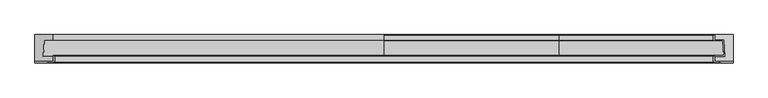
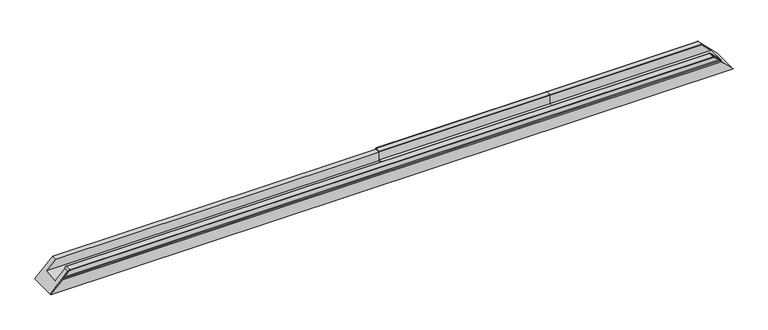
"""IFC4 building model written with IfcOpenShell, lengths in millimetres: proxy geometry, Weiku - Montante - Caixilho duplo 02.2.01.002 : Weiku - Montante - Caixilho duplo 02.2.01.002."""

from ifc_helpers import new_model, si_unit, point, frame, frame_2d, origin, place, context, project, spatial, polyline, circle_curve, ellipse_curve, trimmed, segment, composite_curve, outline, extrude, faceted_brep, source, transform, mapped, element, save
from ifc_brep_helpers import plane_surface, cylinder_surface, revolved_surface, advanced_brep


def generic_models_74214fbd(model_context):
    return source(origin(), model_context, "Body", "SolidModel", [
        extrude(outline(composite_curve([segment(polyline([(-15.0, 52.0), (-15.0, 26.0), (-62.0, 23.7770256), (-62.0, 52.0), (-60.0, 52.0), (-60.0, 26.8749739), (-17.0, 28.908759), (-17.0, 55.0)]), True, "CONTINUOUS"), segment(trimmed(circle_curve(frame_2d((-16.0, 55.0)), 1.0), [point((-17.0, 55.0))], [point((-16.0, 56.0))], False, "CARTESIAN"), True, "CONTINUOUS"), segment(polyline([(-16.0, 56.0), (-1.0, 56.0)]), True, "CONTINUOUS"), segment(trimmed(circle_curve(frame_2d((-1.0, 55.0)), 1.0), [point((-1.0, 56.0))], [point((0.0, 55.0))], False, "CARTESIAN"), True, "CONTINUOUS"), segment(polyline([(0.0, 55.0), (0.0, 52.0), (-15.0, 52.0)]), True, "CONTINUOUS")], self_intersect=False)), frame((0.0, 0.0, 0.0), z_axis=(1.0, 0.0, 0.0), x_axis=(0.0, 1.0, 0.0)), (0.0, 0.0, 1.0), 497.5),
        advanced_brep(
        [(943.0, 0.0, 52.0), (940.0, 0.0, 55.0), (939.0, -1.0, 56.0), (939.0, -16.0, 56.0), (940.0, -17.0, 55.0), (966.091241, -17.0, 28.908759), (968.1250261, -60.0, 26.8749739), (943.0, -60.0, 52.0), (943.0, -62.0, 52.0), (971.2229744, -62.0, 23.7770256), (969.0, -15.0, 26.0), (943.0, -15.0, 52.0), (497.5, -15.0, 52.0), (497.5, -15.0, 26.0), (497.5, -62.0, 23.7770256), (497.5, -62.0, 52.0), (497.5, -60.0, 52.0), (497.5, -60.0, 26.8749739), (497.5, -17.0, 28.908759), (497.5, -17.0, 55.0), (497.5, -16.0, 56.0), (497.5, -1.0, 56.0), (497.5, 0.0, 55.0), (497.5, 0.0, 52.0)],
        [
            (0, 1),
            (1, 2, ellipse_curve(frame((940.0, -1.0, 55.0), z_axis=(0.7071067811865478, 0.0, 0.7071067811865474), x_axis=(-0.7071067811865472, 0.0, 0.7071067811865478)), 1.4142136, 1.0)),
            (2, 3),
            (3, 4, ellipse_curve(frame((940.0, -16.0, 55.0), z_axis=(0.7071067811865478, 0.0, 0.7071067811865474), x_axis=(-0.7071067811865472, 0.0, 0.7071067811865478)), 1.4142136, 1.0)),
            (4, 5),
            (5, 6),
            (6, 7),
            (7, 8),
            (8, 9),
            (9, 10),
            (10, 11),
            (11, 0),
            (12, 13),
            (13, 14),
            (14, 15),
            (15, 16),
            (16, 17),
            (17, 18),
            (18, 19),
            (19, 20, circle_curve(frame((497.5, -16.0, 55.0), z_axis=(-1.0, 0.0, 0.0), x_axis=(0.0, -1.0, 0.0)), 1.0)),
            (20, 21),
            (21, 22, circle_curve(frame((497.5, -1.0, 55.0), z_axis=(-1.0, 0.0, 0.0), x_axis=(0.0, -1.0, 0.0)), 1.0)),
            (22, 23),
            (23, 12),
            (23, 0),
            (11, 12),
            (22, 1),
            (21, 2),
            (20, 3),
            (19, 4),
            (18, 5),
            (17, 6),
            (16, 7),
            (15, 8),
            (14, 9),
            (13, 10),
        ],
        [
            plane_surface(frame((925.0, 0.0, 70.0), z_axis=(0.7071067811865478, 0.0, 0.7071067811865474), x_axis=(0.0, -1.0, 0.0))),
            plane_surface(frame((497.5, 0.0, 0.0), z_axis=(-1.0, 0.0, 0.0), x_axis=(0.0, 0.0, 1.0))),
            plane_surface(frame((497.5, -15.0, 52.0), z_axis=(0.0, 0.0, -1.0), x_axis=(1.0, 0.0, 0.0))),
            plane_surface(frame((497.5, 0.0, 52.0), z_axis=(0.0, 1.0, 0.0), x_axis=(1.0, 0.0, 0.0))),
            cylinder_surface(frame((497.5, -1.0, 55.0), z_axis=(-1.0, 0.0, 0.0), x_axis=(0.0, -1.0, 0.0)), 1.0),
            plane_surface(frame((497.5, -1.0, 56.0), z_axis=(0.0, 0.0, 1.0), x_axis=(1.0, 0.0, 0.0))),
            cylinder_surface(frame((497.5, -16.0, 55.0), z_axis=(-1.0, 0.0, 0.0), x_axis=(0.0, -1.0, 0.0)), 1.0),
            plane_surface(frame((497.5, -17.0, 55.0), z_axis=(0.0, -1.0, 0.0), x_axis=(1.0, 0.0, 0.0))),
            plane_surface(frame((497.5, -17.0, 28.908759), z_axis=(0.0, -0.0472445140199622, 0.9988833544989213), x_axis=(1.0, 0.0, 0.0))),
            plane_surface(frame((497.5, -60.0, 26.8749739), z_axis=(0.0, 1.0, 0.0), x_axis=(1.0, 0.0, 0.0))),
            plane_surface(frame((497.5, -60.0, 52.0), z_axis=(0.0, 0.0, 1.0), x_axis=(1.0, 0.0, 0.0))),
            plane_surface(frame((497.5, -62.0, 52.0), z_axis=(0.0, -1.0, 0.0), x_axis=(1.0, 0.0, 0.0))),
            plane_surface(frame((497.5, -62.0, 23.7770256), z_axis=(0.0, 0.047244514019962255, -0.9988833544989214), x_axis=(1.0, 0.0, 0.0))),
            plane_surface(frame((497.5, -15.0, 26.0), z_axis=(0.0, 1.0, 0.0), x_axis=(1.0, 0.0, 0.0))),
        ],
        [
            (0, [[1, 2, 3, 4, 5, 6, 7, 8, 9, 10, 11, 12]]),
            (1, [[13, 14, 15, 16, 17, 18, 19, 20, 21, 22, 23, 24]]),
            (2, [[25, -12, 26, -24]]),
            (3, [[27, -1, -25, -23]]),
            (4, [[28, -2, -27, -22]]),
            (5, [[29, -3, -28, -21]]),
            (6, [[30, -4, -29, -20]]),
            (7, [[31, -5, -30, -19]]),
            (8, [[32, -6, -31, -18]]),
            (9, [[33, -7, -32, -17]]),
            (10, [[34, -8, -33, -16]]),
            (11, [[35, -9, -34, -15]]),
            (12, [[36, -10, -35, -14]]),
            (13, [[-26, -11, -36, -13]]),
        ],
    ),
        advanced_brep(
        [(-943.0, -60.0, 52.0), (-943.0, -77.0, 52.0), (-995.0, -77.0, 0.0), (-995.0, -81.0, 0.0), (-960.0, -81.0, 35.0), (-957.0, -80.0, 38.0), (-954.0, -79.0, 41.0), (-940.0, -79.0, 55.0), (-939.0, -78.0, 56.0), (-939.0, -61.0, 56.0), (-940.0, -60.0, 55.0), (940.0, -60.0, 55.0), (943.0, -60.0, 52.0), (939.0, -61.0, 56.0), (939.0, -78.0, 56.0), (940.0, -79.0, 55.0), (954.0, -79.0, 41.0), (957.0, -80.0, 38.0), (960.0, -81.0, 35.0), (995.0, -81.0, 0.0), (995.0, -77.0, 0.0), (943.0, -77.0, 52.0)],
        [
            (0, 1),
            (1, 2),
            (2, 3),
            (3, 4),
            (4, 5, ellipse_curve(frame((-960.0, -76.0, 35.0), z_axis=(-0.7071067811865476, 0.0, 0.7071067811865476), x_axis=(-0.7071067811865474, 0.0, -0.7071067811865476)), 7.0710678, 5.0)),
            (5, 6, ellipse_curve(frame((-954.0, -84.0, 41.0), z_axis=(0.7071067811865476, 0.0, -0.7071067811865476), x_axis=(0.7071067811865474, 0.0, 0.7071067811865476)), 7.0710678, 5.0)),
            (6, 7),
            (7, 8, ellipse_curve(frame((-940.0, -78.0, 55.0), z_axis=(-0.7071067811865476, 0.0, 0.7071067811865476), x_axis=(-0.7071067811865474, 0.0, -0.7071067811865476)), 1.4142136, 1.0)),
            (8, 9),
            (9, 10, ellipse_curve(frame((-940.0, -61.0, 55.0), z_axis=(-0.7071067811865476, 0.0, 0.7071067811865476), x_axis=(-0.7071067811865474, 0.0, -0.7071067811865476)), 1.4142136, 1.0)),
            (10, 0),
            (10, 11),
            (11, 12),
            (12, 0),
            (9, 13),
            (13, 11, ellipse_curve(frame((940.0, -61.0, 55.0), z_axis=(-0.7071067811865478, 0.0, -0.7071067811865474), x_axis=(-0.7071067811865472, 0.0, 0.7071067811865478)), 1.4142136, 1.0)),
            (8, 14),
            (14, 13),
            (7, 15),
            (15, 14, ellipse_curve(frame((940.0, -78.0, 55.0), z_axis=(-0.7071067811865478, 0.0, -0.7071067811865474), x_axis=(-0.7071067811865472, 0.0, 0.7071067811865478)), 1.4142136, 1.0)),
            (6, 16),
            (16, 15),
            (5, 17),
            (17, 16, ellipse_curve(frame((954.0, -84.0, 41.0), z_axis=(0.7071067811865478, 0.0, 0.7071067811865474), x_axis=(0.7071067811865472, 0.0, -0.7071067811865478)), 7.0710678, 5.0)),
            (4, 18),
            (18, 17, ellipse_curve(frame((960.0, -76.0, 35.0), z_axis=(-0.7071067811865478, 0.0, -0.7071067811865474), x_axis=(-0.7071067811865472, 0.0, 0.7071067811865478)), 7.0710678, 5.0)),
            (19, 18),
            (3, 19),
            (2, 20),
            (20, 19),
            (1, 21),
            (21, 20),
            (12, 21),
        ],
        [
            plane_surface(frame((-995.0, 0.0, 0.0), z_axis=(-0.7071067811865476, 0.0, 0.7071067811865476), x_axis=(0.0, -1.0, 0.0))),
            plane_surface(frame((-995.0, -60.0, 52.0), z_axis=(0.0, 1.0, 0.0), x_axis=(1.0, 0.0, 0.0))),
            cylinder_surface(frame((-995.0, -61.0, 55.0), z_axis=(-1.0, 0.0, 0.0), x_axis=(0.0, -1.0, 0.0)), 1.0),
            plane_surface(frame((-995.0, -61.0, 56.0), z_axis=(0.0, 0.0, 1.0), x_axis=(1.0, 0.0, 0.0))),
            cylinder_surface(frame((-995.0, -78.0, 55.0), z_axis=(-1.0, 0.0, 0.0), x_axis=(0.0, -1.0, 0.0)), 1.0),
            plane_surface(frame((-995.0, -79.0, 55.0), z_axis=(0.0, -1.0, 0.0), x_axis=(1.0, 0.0, 0.0))),
            revolved_surface(polyline([(958.9999999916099, -89.0, 41.0), (-958.9999999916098, -89.0, 41.0)]), (-995.0, -84.0, 41.0), (1.0, 0.0, 0.0)),
            cylinder_surface(frame((-995.0, -76.0, 35.0), z_axis=(-1.0, 0.0, 0.0), x_axis=(0.0, -1.0, 0.0)), 5.0),
            plane_surface(frame((-995.0, -81.0, 35.0), z_axis=(0.0, -1.0, 0.0), x_axis=(1.0, 0.0, 0.0))),
            plane_surface(frame((-995.0, -81.0, 0.0), z_axis=(0.0, 0.0, -1.0), x_axis=(1.0, 0.0, 0.0))),
            plane_surface(frame((-995.0, -77.0, 0.0), z_axis=(0.0, 1.0, 0.0), x_axis=(1.0, 0.0, 0.0))),
            plane_surface(frame((-995.0, -77.0, 52.0), z_axis=(0.0, 0.0, -1.0), x_axis=(1.0, 0.0, 0.0))),
            plane_surface(frame((925.0, 0.0, 70.0), z_axis=(0.7071067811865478, 0.0, 0.7071067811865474), x_axis=(0.0, -1.0, 0.0))),
        ],
        [
            (0, [[1, 2, 3, 4, 5, 6, 7, 8, 9, 10, 11]]),
            (1, [[12, 13, 14, -11]]),
            (2, [[15, 16, -12, -10]]),
            (3, [[17, 18, -15, -9]]),
            (4, [[19, 20, -17, -8]]),
            (5, [[21, 22, -19, -7]]),
            (6, [[23, 24, -21, -6]]),
            (7, [[25, 26, -23, -5]]),
            (8, [[27, -25, -4, 28]]),
            (9, [[-3, 29, 30, -28]]),
            (10, [[-2, 31, 32, -29]]),
            (11, [[-14, 33, -31, -1]]),
            (12, [[-16, -18, -20, -22, -24, -26, -27, -30, -32, -33, -13]]),
        ],
    ),
        faceted_brep([(-969.0, -15.0, 26.0), (969.0, -15.0, 26.0), (943.0, -15.0, 52.0), (-943.0, -15.0, 52.0), (-971.2229744, -62.0, 23.7770256), (971.2229744, -62.0, 23.7770256), (-943.0, -62.0, 52.0), (943.0, -62.0, 52.0), (-943.0, -77.0, 52.0), (943.0, -77.0, 52.0), (995.0, -77.0, 0.0), (-995.0, -77.0, 0.0), (-995.0, 0.0, 0.0), (995.0, 0.0, 0.0), (-943.0, 0.0, 52.0), (943.0, 0.0, 52.0)], [[[0, 1, 2, 3]], [[4, 5, 1, 0]], [[6, 7, 5, 4]], [[8, 9, 7, 6]], [[10, 9, 8, 11]], [[11, 12, 13, 10]], [[12, 14, 15, 13]], [[3, 2, 15, 14]], [[3, 14, 12, 11, 8, 6, 4, 0]], [[1, 5, 7, 9, 10, 13, 15, 2]]]),
    ])


if __name__ == "__main__":
    model = new_model("IFC4")
    model_context = context("Model", 3, world=origin())
    ifc_project = project(units=[si_unit("LENGTHUNIT", "METRE", prefix="MILLI")], contexts=[model_context])
    site = spatial("IfcSite", under=ifc_project)
    building = spatial("IfcBuilding", under=site)
    placement = place(None, origin())
    generic_models_shape = generic_models_74214fbd(model_context)
    element("IfcBuildingElementProxy", 1, Name="Weiku - Montante - Caixilho duplo 02.2.01.002 : Weiku - Montante - Caixilho duplo 02.2.01.002", ObjectType="Weiku - Montante - Caixilho duplo 02.2.01.002 : Weiku - Montante - Caixilho duplo 02.2.01.002", at=placement, inside=building, context=model_context, shape_type="MappedRepresentation", body=[
        mapped(generic_models_shape, transform((0.0, 0.0, 0.0), x_axis=(1.0, 0.0, 0.0), y_axis=(0.0, 1.0, 0.0), z_axis=(0.0, 0.0, 1.0))),
    ])
    save(model, "model.ifc")
